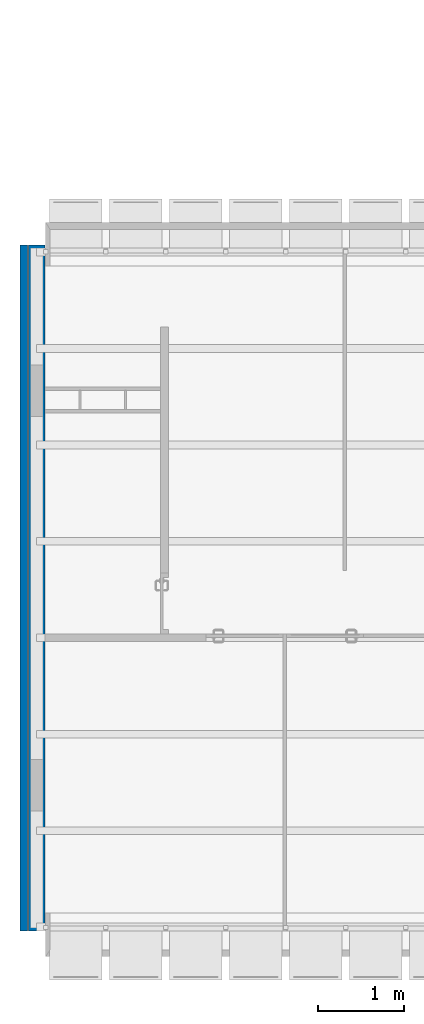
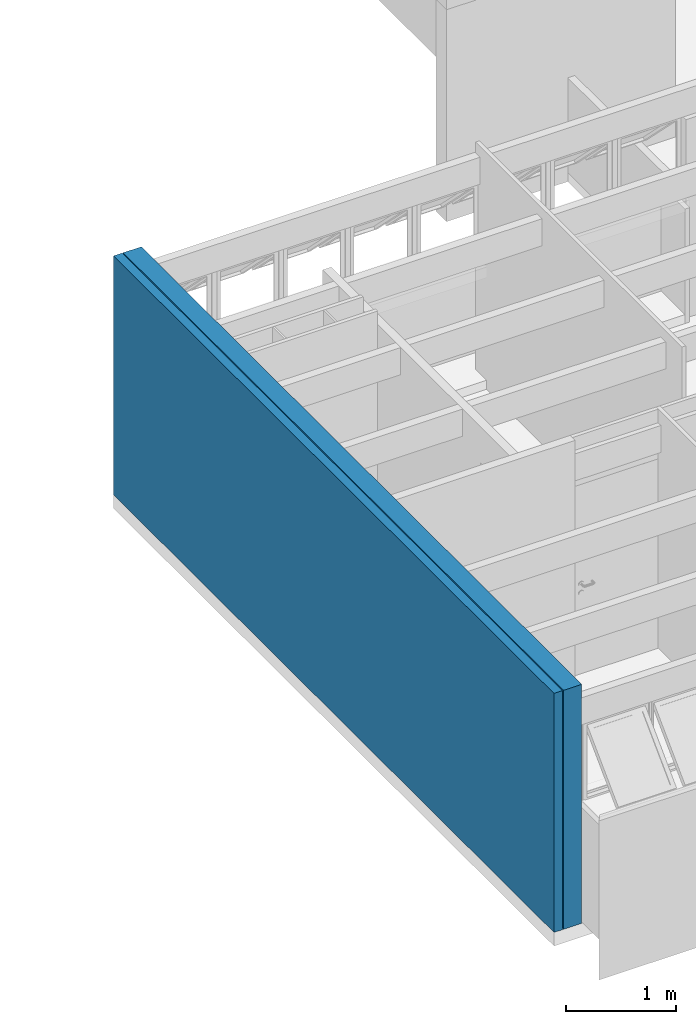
# One storey, part 20 of 40: 2 walls.
"""IFC4 building model written with IfcOpenShell, lengths in millimetres."""

from ifc_helpers import new_model, entity, si_unit, converted_unit, derived_unit, direction, frame, origin_with_axes, place, context, subcontext, project, spatial, line, indexed_curve, outline, extrude, material, layer, layer_set, layer_usage, type_object, element, save


model = new_model("IFC4")

# Units and contexts
model_context = context("Model", 3, precision=0.01, world=origin_with_axes(), true_north=direction((0.0, 1.0)))
body_context = subcontext(model_context, "Body", "Model", "MODEL_VIEW")
ifc_project = project(units=[si_unit("LENGTHUNIT", "METRE", prefix="MILLI"), si_unit("AREAUNIT", "SQUARE_METRE"), si_unit("VOLUMEUNIT", "CUBIC_METRE"), converted_unit("PLANEANGLEUNIT", "DEGREE", entity("IfcPlaneAngleMeasure", 0.0174532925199), si_unit("PLANEANGLEUNIT", "RADIAN"), dimensions=[0, 0, 0, 0, 0, 0, 0]), converted_unit("TIMEUNIT", "Year", entity("IfcTimeMeasure", 31556926.0), si_unit("TIMEUNIT", "SECOND"), dimensions=[0, 0, 1, 0, 0, 0, 0]), si_unit("MASSUNIT", "GRAM", prefix="KILO"), si_unit("THERMODYNAMICTEMPERATUREUNIT", "DEGREE_CELSIUS"), si_unit("LUMINOUSINTENSITYUNIT", "LUMEN"), si_unit("ENERGYUNIT", "JOULE", prefix="MEGA"), derived_unit("THERMALCONDUCTANCEUNIT", [(si_unit("POWERUNIT", "WATT"), 1), (si_unit("LENGTHUNIT", "METRE"), -1), (si_unit("THERMODYNAMICTEMPERATUREUNIT", "KELVIN"), -1)]), derived_unit("SPECIFICHEATCAPACITYUNIT", [(si_unit("ENERGYUNIT", "JOULE"), 1), (si_unit("MASSUNIT", "GRAM", prefix="KILO"), -1), (si_unit("THERMODYNAMICTEMPERATUREUNIT", "KELVIN"), -1)]), derived_unit("MASSDENSITYUNIT", [(si_unit("MASSUNIT", "GRAM", prefix="KILO"), 1), (si_unit("VOLUMEUNIT", "CUBIC_METRE"), -1)])], contexts=[model_context])

# Site, building, storey
site_placement = place(None, origin_with_axes())
site = spatial("IfcSite", under=ifc_project, at=site_placement, Name="Local", CompositionType="ELEMENT")
building_placement = place(site_placement, origin_with_axes())
building = spatial("IfcBuilding", under=site, at=building_placement, Name="Construção", CompositionType="ELEMENT")
storey_placement = place(building_placement, frame((0.0, 0.0, 5300.0), z_axis=(0.0, 0.0, 1.0), x_axis=(1.0, 0.0, 0.0)))
storey = spatial("IfcBuildingStorey", under=building, at=storey_placement, Name="Terceiro Pavimento", CompositionType="ELEMENT", Elevation=5300.0)

# Walls
ifc_material = material(Name="GENÉRICO - VEDAÇÃO EXTERNA")
ifc_layer_1 = layer(ifc_material, 190.0, ventilated="UNKNOWN", Name="GENÉRICO - VEDAÇÃO EXTERNA")
ifc_layer_set_1 = layer_set([ifc_layer_1], Name="GENÉRICO - VEDAÇÃO EXTERNA 190")
ifc_layer_usage_1 = layer_usage(ifc_layer_set_1, "AXIS2", "NEGATIVE", 0.0)
wall_type_1 = type_object("IfcWallType", Name="GENÉRICO - VEDAÇÃO EXTERNA 190", PredefinedType="NOTDEFINED")
wall_1_placement = place(storey_placement, frame((290.0, 8300.0, 0.0), z_axis=(0.0, 0.0, 1.0), x_axis=(0.0, -1.0, 0.0)))
element("IfcWall", 1, at=wall_1_placement, inside=storey, type_object=wall_type_1, material=ifc_layer_usage_1, Name="APTO9-PAREDE-013", PredefinedType="NOTDEFINED", context=body_context, shape_type="SweptSolid", body=[
    extrude(outline(indexed_curve([(0.0, -190.0), (8000.0, -190.0), (8000.0, 0.0), (0.0, 0.0)], segments=[line(1, 2, 3, 4, 1)])), origin_with_axes(), (0.0, 0.0, 1.0), 2650.0),
])
ifc_layer_2 = layer(ifc_material, 90.0, ventilated="UNKNOWN", Name="GENÉRICO - VEDAÇÃO EXTERNA")
ifc_layer_set_2 = layer_set([ifc_layer_2], Name="GENÉRICO - VEDAÇÃO EXTERNA 90")
ifc_layer_usage_2 = layer_usage(ifc_layer_set_2, "AXIS2", "NEGATIVE", 0.0)
wall_type_2 = type_object("IfcWallType", Name="GENÉRICO - VEDAÇÃO EXTERNA 90", PredefinedType="NOTDEFINED")
wall_2_placement = place(storey_placement, frame((90.0, 8300.0, 0.0), z_axis=(0.0, 0.0, 1.0), x_axis=(0.0, -1.0, 0.0)))
element("IfcWall", 2, at=wall_2_placement, inside=storey, type_object=wall_type_2, material=ifc_layer_usage_2, Name="APTO9-PAREDE-014", PredefinedType="NOTDEFINED", context=body_context, shape_type="SweptSolid", body=[
    extrude(outline(indexed_curve([(0.0, -90.0), (8000.0, -90.0), (8000.0, 0.0), (0.0, 0.0)], segments=[line(1, 2, 3, 4, 1)])), origin_with_axes(), (0.0, 0.0, 1.0), 2650.0),
])

save(model, "model.ifc")
